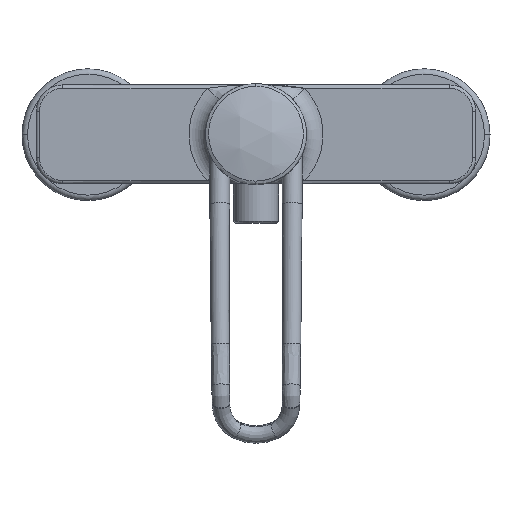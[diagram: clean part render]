
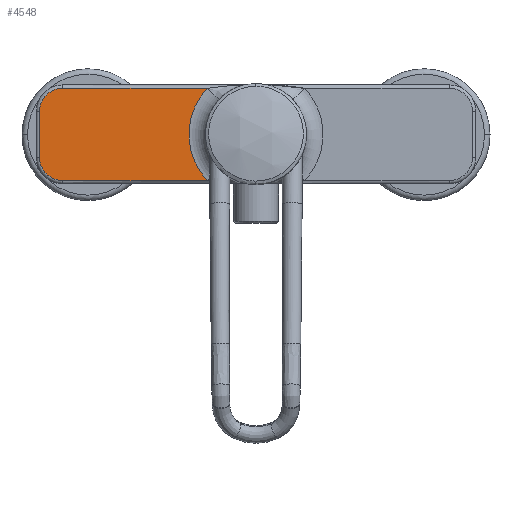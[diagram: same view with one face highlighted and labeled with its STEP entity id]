
A CAD part, top view. The second image highlights one B-rep face of the part: STEP entity #4548.
In plain terms, the highlighted planar face has unit normal (0, 0, 1).
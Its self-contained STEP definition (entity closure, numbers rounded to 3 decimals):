
#352=CARTESIAN_POINT('',(-22.119,21.,14.));
#372=CARTESIAN_POINT('',(0.,0.,14.));
#373=DIRECTION('',(0.,0.,-1.));
#374=DIRECTION('',(-0.725,-0.689,0.));
#375=AXIS2_PLACEMENT_3D('',#372,#373,#374);
#377=DIRECTION('',(-1.,0.,0.));
#378=VECTOR('',#377,65.881);
#379=CARTESIAN_POINT('',(-22.119,-21.,14.));
#380=LINE('',#379,#378);
#381=CARTESIAN_POINT('',(-88.,-10.5,14.));
#382=DIRECTION('',(0.,0.,-1.));
#383=DIRECTION('',(0.,-1.,0.));
#384=AXIS2_PLACEMENT_3D('',#381,#382,#383);
#386=DIRECTION('',(0.,1.,0.));
#387=VECTOR('',#386,21.);
#388=CARTESIAN_POINT('',(-98.5,-10.5,14.));
#389=LINE('',#388,#387);
#390=CARTESIAN_POINT('',(-88.,10.5,14.));
#391=DIRECTION('',(0.,0.,-1.));
#392=DIRECTION('',(-1.,0.,0.));
#393=AXIS2_PLACEMENT_3D('',#390,#391,#392);
#395=DIRECTION('',(1.,0.,0.));
#396=VECTOR('',#395,65.881);
#397=CARTESIAN_POINT('',(-88.,21.,14.));
#398=LINE('',#397,#396);
#3755=CARTESIAN_POINT('',(-98.5,10.5,14.));
#3756=CARTESIAN_POINT('',(-88.,21.,14.));
#3757=VERTEX_POINT('',#3755);
#3758=VERTEX_POINT('',#3756);
#3761=CARTESIAN_POINT('',(-98.5,-10.5,14.));
#3762=VERTEX_POINT('',#3761);
#3765=CARTESIAN_POINT('',(-88.,-21.,14.));
#3766=VERTEX_POINT('',#3765);
#3789=VERTEX_POINT('',#352);
#3792=CARTESIAN_POINT('',(-22.119,-21.,14.));
#3793=VERTEX_POINT('',#3792);
#4532=CARTESIAN_POINT('',(-100.,-22.5,14.));
#4533=DIRECTION('',(0.,0.,1.));
#4534=DIRECTION('',(1.,0.,0.));
#4535=AXIS2_PLACEMENT_3D('',#4532,#4533,#4534);
#4536=PLANE('',#4535);
#4537=ORIENTED_EDGE('',*,*,#4201,.F.);
#4538=ORIENTED_EDGE('',*,*,#4107,.T.);
#4540=ORIENTED_EDGE('',*,*,#4539,.T.);
#4542=ORIENTED_EDGE('',*,*,#4541,.T.);
#4544=ORIENTED_EDGE('',*,*,#4543,.T.);
#4545=ORIENTED_EDGE('',*,*,#4445,.T.);
#4546=EDGE_LOOP('',(#4537,#4538,#4540,#4542,#4544,#4545));
#4547=FACE_OUTER_BOUND('',#4546,.F.);
#4548=ADVANCED_FACE('',(#4547),#4536,.T.);
#376=CIRCLE('',#375,30.5);
#385=CIRCLE('',#384,10.5);
#394=CIRCLE('',#393,10.5);
#4107=EDGE_CURVE('',#3793,#3766,#380,.T.);
#4201=EDGE_CURVE('',#3793,#3789,#376,.T.);
#4445=EDGE_CURVE('',#3758,#3789,#398,.T.);
#4539=EDGE_CURVE('',#3766,#3762,#385,.T.);
#4541=EDGE_CURVE('',#3762,#3757,#389,.T.);
#4543=EDGE_CURVE('',#3757,#3758,#394,.T.);
